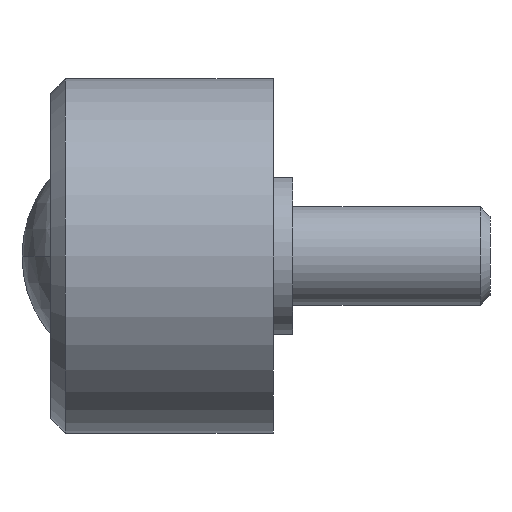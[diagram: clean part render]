
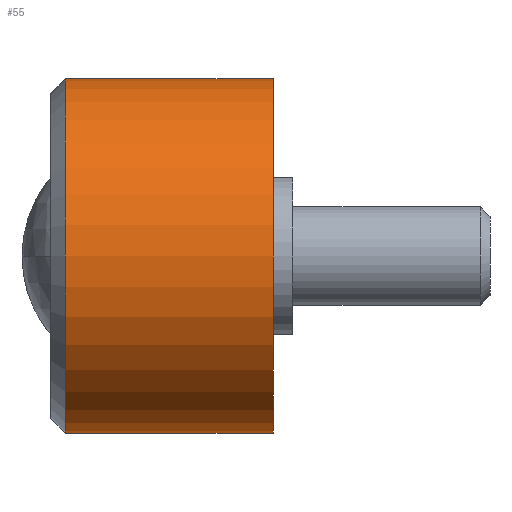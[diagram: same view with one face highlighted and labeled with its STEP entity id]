
A CAD part, left-side view. The second image highlights one B-rep face of the part: STEP entity #55.
In plain terms, the highlighted cylindrical face has radius 18 mm (diameter 36 mm), a partial arc.
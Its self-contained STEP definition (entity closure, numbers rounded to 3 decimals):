
#8 = CIRCLE ( 'NONE', #357, 18. ) ;
#36 = VERTEX_POINT ( 'NONE', #322 ) ;
#54 = DIRECTION ( 'NONE',  ( 0., -1., 0. ) ) ;
#55 = ADVANCED_FACE ( 'NONE', ( #543 ), #203, .T. ) ;
#69 = CIRCLE ( 'NONE', #506, 18. ) ;
#73 = CARTESIAN_POINT ( 'NONE',  ( 0., 21.1, 18. ) ) ;
#82 = VERTEX_POINT ( 'NONE', #73 ) ;
#86 = ORIENTED_EDGE ( 'NONE', *, *, #663, .F. ) ;
#90 = ORIENTED_EDGE ( 'NONE', *, *, #197, .T. ) ;
#115 = CARTESIAN_POINT ( 'NONE',  ( 0., 0., -18. ) ) ;
#116 = DIRECTION ( 'NONE',  ( 0., -1., 0. ) ) ;
#127 = CARTESIAN_POINT ( 'NONE',  ( 0., 0., 0. ) ) ;
#134 = CARTESIAN_POINT ( 'NONE',  ( 0., 21.1, -18. ) ) ;
#145 = VERTEX_POINT ( 'NONE', #134 ) ;
#197 = EDGE_CURVE ( 'NONE', #145, #504, #569, .T. ) ;
#203 = CYLINDRICAL_SURFACE ( 'NONE', #366, 18. ) ;
#235 = DIRECTION ( 'NONE',  ( 0., -1., 0. ) ) ;
#251 = CARTESIAN_POINT ( 'NONE',  ( 0., 21.1, 0. ) ) ;
#261 = EDGE_CURVE ( 'NONE', #82, #145, #8, .T. ) ;
#264 = DIRECTION ( 'NONE',  ( 0., 0., -1. ) ) ;
#322 = CARTESIAN_POINT ( 'NONE',  ( 0., 0., 18. ) ) ;
#357 = AXIS2_PLACEMENT_3D ( 'NONE', #251, #116, #532 ) ;
#366 = AXIS2_PLACEMENT_3D ( 'NONE', #679, #582, #697 ) ;
#424 = ORIENTED_EDGE ( 'NONE', *, *, #598, .F. ) ;
#432 = VECTOR ( 'NONE', #54, 1000. ) ;
#482 = DIRECTION ( 'NONE',  ( 0., -1., 0. ) ) ;
#504 = VERTEX_POINT ( 'NONE', #115 ) ;
#506 = AXIS2_PLACEMENT_3D ( 'NONE', #127, #482, #264 ) ;
#532 = DIRECTION ( 'NONE',  ( 0., 0., 1. ) ) ;
#543 = FACE_OUTER_BOUND ( 'NONE', #667, .T. ) ;
#569 = LINE ( 'NONE', #762, #707 ) ;
#571 = LINE ( 'NONE', #580, #432 ) ;
#580 = CARTESIAN_POINT ( 'NONE',  ( 0., 0., 18. ) ) ;
#582 = DIRECTION ( 'NONE',  ( 0., -1., 0. ) ) ;
#598 = EDGE_CURVE ( 'NONE', #82, #36, #571, .T. ) ;
#663 = EDGE_CURVE ( 'NONE', #36, #504, #69, .T. ) ;
#667 = EDGE_LOOP ( 'NONE', ( #424, #726, #90, #86 ) ) ;
#679 = CARTESIAN_POINT ( 'NONE',  ( 0., 0., 0. ) ) ;
#697 = DIRECTION ( 'NONE',  ( 0., 0., -1. ) ) ;
#707 = VECTOR ( 'NONE', #235, 1000. ) ;
#726 = ORIENTED_EDGE ( 'NONE', *, *, #261, .T. ) ;
#762 = CARTESIAN_POINT ( 'NONE',  ( 0., 0., -18. ) ) ;
